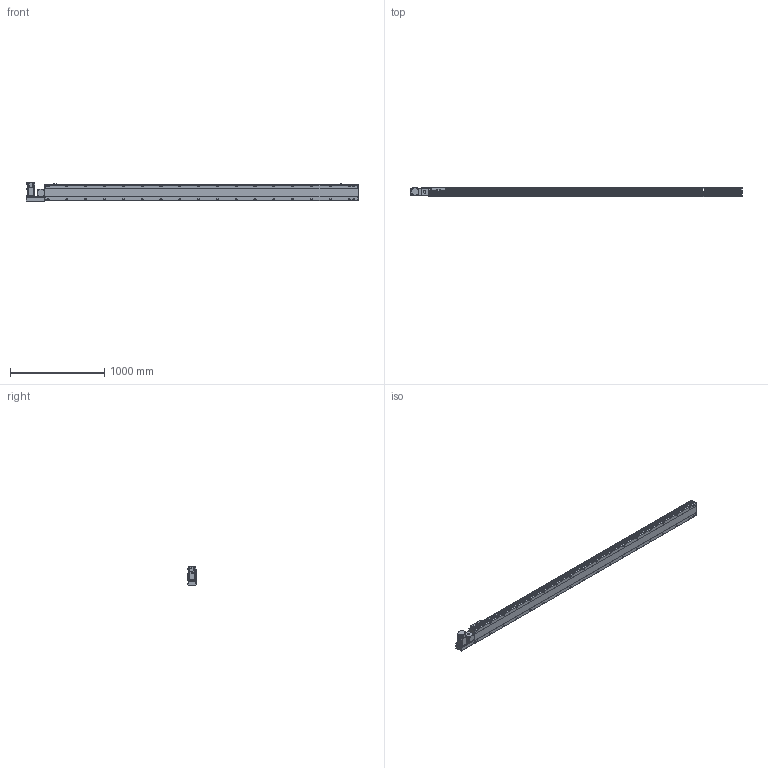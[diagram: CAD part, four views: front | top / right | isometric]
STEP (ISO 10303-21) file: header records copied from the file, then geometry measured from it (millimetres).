
FILE_DESCRIPTION( ( 'STEP AP214' ), '1' );
FILE_NAME( 'x:/temp/worker_3/temp/exporttempdir_5796_130_xBRU0/format_0/PBS170-P40-S3050-L-T75-C1-N(0).stp', '2022-06-07T06:59:38', ( 'License CC BY-ND 4.0' ), ( 'CADENAS' ), ' ', 'PARTsolutions', ' ' );
FILE_SCHEMA( ( 'AUTOMOTIVE_DESIGN { 1 0 10303 214 1 1 1 1 }' ) );
Length unit declared in the file: millimetre
Products named in the file (7): PBS170-P40-S3050-L-T75-C1-N(0); _PBS170-S3050()_body; _PBS170T-L_motors; _T75-p1; _PBS170_sliser; _PBS170_plant; _PBS170_sensor
Assembly tree (8 placements, depth 2):
  PBS170-P40-S3050-L-T75-C1-N(0)
    _PBS170-S3050()_body
    _PBS170T-L_motors
    _T75-p1
    _PBS170_sliser
    _PBS170_plant
    _PBS170_sensor  x3
Bounding box: 3528 x 97 x 197.3 mm (x, y, z)
Volume: 25594546.9 mm3; surface area: 3203559.3 mm2
Topology: 8 solids, 8 shells, 1242 faces, 3275 edges, 2134 vertices
Faces by surface type: plane 747, cylinder 419, cone 66, sphere 8, torus 2
Full cylindrical faces by diameter (mm): 3.242 x4, 4 x2, 4.4 x4, 4.5 x6, 4.917 x4, 6 x9, 6.647 x44, 7 x2, 7.5 x4, 8 x8, 8.5 x36, 10 x4, 10.5 x36, 11 x2, 30 x2, 40 x1, 70 x1
Entity records: 46160 total; most frequent: CARTESIAN_POINT 7901, DIRECTION 6000, ORIENTED_EDGE 5628, EDGE_CURVE 2814, AXIS2_PLACEMENT_3D 2137, VERTEX_POINT 1970, LINE 1726, VECTOR 1726
